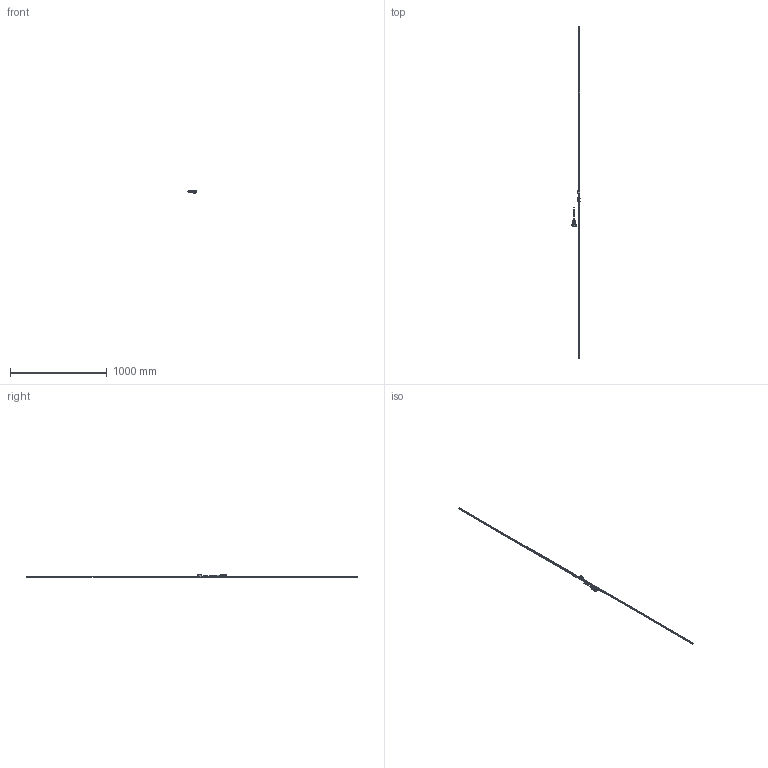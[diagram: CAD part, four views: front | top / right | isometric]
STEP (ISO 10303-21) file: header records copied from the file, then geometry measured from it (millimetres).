
FILE_DESCRIPTION(('Creo Elements/Direct Modeling STEP Export'),'2;1');
FILE_NAME('ST1300-3400F_G.stp','2022-08-16T11:39:26',(''),(''),'Creo Elements/Direct Modeling STEP processor for AP214 (Solid Model)','Creo Elements/Direct Modeling 18.1I 13-Aug-2016 (C) Parametric Technology GmbH','');
FILE_SCHEMA(('AUTOMOTIVE_DESIGN { 1 0 10303 214 1 1 1 1 }'));
Length unit declared in the file: millimetre
Products named in the file (4): Scale_3400; Connector; Detector_Head; ST1300-3400F_G
Assembly tree (3 placements, depth 2):
  ST1300-3400F_G
    Detector_Head
    Connector
    Scale_3400
Bounding box: 83 x 3440 x 30.1 mm (x, y, z)
Volume: 304138.8 mm3; surface area: 175588.8 mm2
Topology: 2 solids, 6 shells, 4067 faces, 11052 edges, 7161 vertices
Faces by surface type: plane 1838, cylinder 1655, extrusion 434, cone 87, torus 26, bspline 23, revolution 4
Entity records: 133466 total; most frequent: CARTESIAN_POINT 32041, ORIENTED_EDGE 22088, DIRECTION 19520, EDGE_CURVE 11040, VERTEX_POINT 7161, VECTOR 6650, AXIS2_PLACEMENT_3D 6432, LINE 6274
